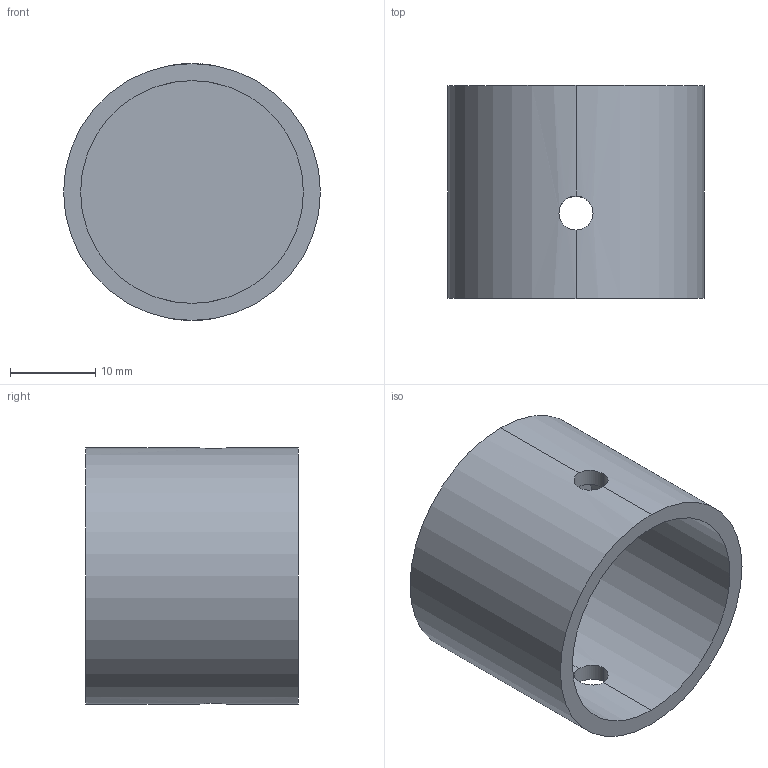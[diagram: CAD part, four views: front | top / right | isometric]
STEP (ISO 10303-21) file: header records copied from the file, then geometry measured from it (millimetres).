
FILE_DESCRIPTION (( 'STEP AP214' ), '1' );
FILE_NAME ('JB-411.step', '2023-12-26T00:49:34', ( 'catia' ), ( 'HP Inc.' ), 'SwSTEP 2.0', 'SolidWorks 2021', '' );
FILE_SCHEMA (( 'AUTOMOTIVE_DESIGN' ));
Length unit declared in the file: millimetre
Products named in the file (1): JB-411
Bounding box: 30.2 x 25 x 30.2 mm (x, y, z)
Volume: 5457.5 mm3; surface area: 5697.8 mm2
Topology: 1 solids, 1 shells, 11 faces, 36 edges, 24 vertices
Faces by surface type: cylinder 8, plane 3
Entity records: 636 total; most frequent: CARTESIAN_POINT 300, ORIENTED_EDGE 72, DIRECTION 52, EDGE_CURVE 36, VERTEX_POINT 24, AXIS2_PLACEMENT_3D 20, B_SPLINE_CURVE_WITH_KNOTS 16, EDGE_LOOP 12
